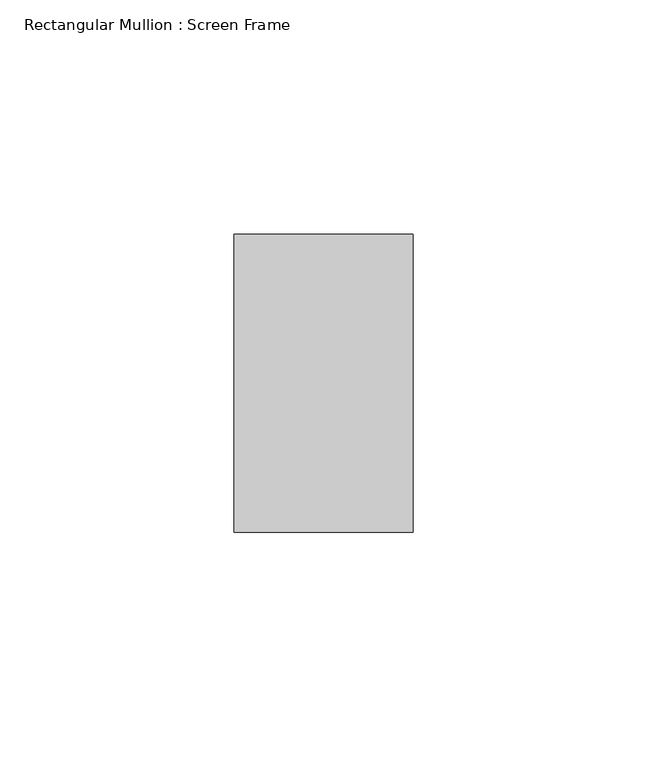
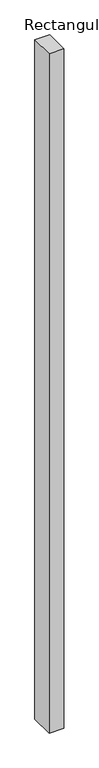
"""IFC4 building model written with IfcOpenShell, lengths in millimetres: member geometry, Rectangular Mullion : Screen Frame."""

from ifc_helpers import new_model, si_unit, frame, origin, place, context, project, spatial, polyline, outline, extrude, source, transform, mapped, element, save


def rectangular_mullion_screen_frame_f38c08a8(model_context):
    return source(origin(), model_context, "Body", "SweptSolid", [
        extrude(outline(polyline([(0.0, 31.75), (0.0, -31.75), (-38.1, -31.75), (-38.1, 31.75), (0.0, 31.75)])), frame((0.0, 0.0, -1858.5688), z_axis=(0.0, 0.0, 1.0), x_axis=(1.0, 0.0, 0.0)), (0.0, 0.0, 1.0), 1858.5688),
    ])


if __name__ == "__main__":
    model = new_model("IFC4")
    model_context = context("Model", 3, world=origin())
    ifc_project = project(units=[si_unit("LENGTHUNIT", "METRE", prefix="MILLI")], contexts=[model_context])
    site = spatial("IfcSite", under=ifc_project)
    building = spatial("IfcBuilding", under=site)
    placement = place(None, origin())
    rectangular_mullion_screen_frame_shape = rectangular_mullion_screen_frame_f38c08a8(model_context)
    element("IfcMember", 1, ObjectType="Rectangular Mullion : Screen Frame", at=placement, inside=building, context=model_context, shape_type="MappedRepresentation", body=[
        mapped(rectangular_mullion_screen_frame_shape, transform((0.0, 0.0, 0.0), x_axis=(1.0, 0.0, 0.0), y_axis=(0.0, 1.0, 0.0), z_axis=(0.0, 0.0, 1.0))),
    ])
    save(model, "model.ifc")
